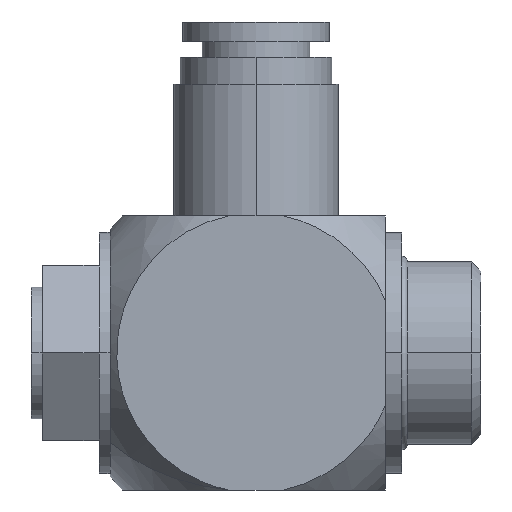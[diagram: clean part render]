
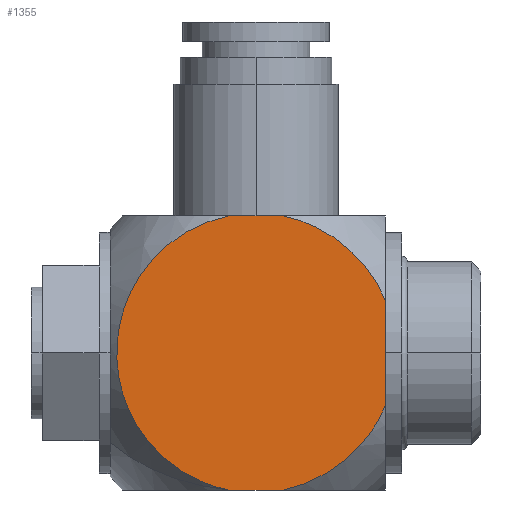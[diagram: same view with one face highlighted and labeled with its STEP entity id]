
A CAD part, left-side view. The second image highlights one B-rep face of the part: STEP entity #1355.
In plain terms, the highlighted planar face has unit normal (-1, 0, 0).
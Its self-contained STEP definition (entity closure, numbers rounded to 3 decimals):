
#93=DIRECTION('',(0.,-1.,0.));
#94=VECTOR('',#93,5.);
#95=CARTESIAN_POINT('',(-12.,1.75,-12.5));
#96=LINE('',#95,#94);
#118=DIRECTION('',(0.,0.,1.));
#119=VECTOR('',#118,9.618);
#120=CARTESIAN_POINT('',(-12.,-12.55,-4.809));
#121=LINE('',#120,#119);
#274=DIRECTION('',(0.,-1.,0.));
#275=VECTOR('',#274,5.);
#276=CARTESIAN_POINT('',(-12.,1.75,12.5));
#277=LINE('',#276,#275);
#361=CARTESIAN_POINT('',(-12.,-3.25,-12.5));
#362=CARTESIAN_POINT('',(-12.,-3.526,-12.441));
#363=CARTESIAN_POINT('',(-12.,-4.073,-12.307));
#364=CARTESIAN_POINT('',(-12.,-4.88,-12.052));
#365=CARTESIAN_POINT('',(-12.,-5.669,-11.745));
#366=CARTESIAN_POINT('',(-12.,-6.436,-11.388));
#367=CARTESIAN_POINT('',(-12.,-7.177,-10.983));
#368=CARTESIAN_POINT('',(-12.,-7.89,-10.532));
#369=CARTESIAN_POINT('',(-12.,-8.573,-10.035));
#370=CARTESIAN_POINT('',(-12.,-9.214,-9.501));
#371=CARTESIAN_POINT('',(-12.,-9.785,-8.96));
#372=CARTESIAN_POINT('',(-12.,-10.272,-8.442));
#373=CARTESIAN_POINT('',(-12.,-10.697,-7.94));
#374=CARTESIAN_POINT('',(-12.,-11.074,-7.448));
#375=CARTESIAN_POINT('',(-12.,-11.417,-6.953));
#376=CARTESIAN_POINT('',(-12.,-11.738,-6.44));
#377=CARTESIAN_POINT('',(-12.,-12.037,-5.909));
#378=CARTESIAN_POINT('',(-12.,-12.31,-5.364));
#379=CARTESIAN_POINT('',(-12.,-12.473,-4.995));
#380=CARTESIAN_POINT('',(-12.,-12.55,-4.809));
#382=CARTESIAN_POINT('',(-12.,1.75,12.5));
#383=CARTESIAN_POINT('',(-12.,2.039,12.442));
#384=CARTESIAN_POINT('',(-12.,2.612,12.306));
#385=CARTESIAN_POINT('',(-12.,3.457,12.041));
#386=CARTESIAN_POINT('',(-12.,4.279,11.719));
#387=CARTESIAN_POINT('',(-12.,5.08,11.34));
#388=CARTESIAN_POINT('',(-12.,5.851,10.907));
#389=CARTESIAN_POINT('',(-12.,6.59,10.42));
#390=CARTESIAN_POINT('',(-12.,7.294,9.883));
#391=CARTESIAN_POINT('',(-12.,7.959,9.298));
#392=CARTESIAN_POINT('',(-12.,8.571,8.679));
#393=CARTESIAN_POINT('',(-12.,9.119,8.043));
#394=CARTESIAN_POINT('',(-12.,9.602,7.406));
#395=CARTESIAN_POINT('',(-12.,10.022,6.774));
#396=CARTESIAN_POINT('',(-12.,10.388,6.146));
#397=CARTESIAN_POINT('',(-12.,10.709,5.519));
#398=CARTESIAN_POINT('',(-12.,10.99,4.888));
#399=CARTESIAN_POINT('',(-12.,11.232,4.254));
#400=CARTESIAN_POINT('',(-12.,11.438,3.615));
#401=CARTESIAN_POINT('',(-12.,11.61,2.97));
#402=CARTESIAN_POINT('',(-12.,11.747,2.318));
#403=CARTESIAN_POINT('',(-12.,11.851,1.659));
#404=CARTESIAN_POINT('',(-12.,11.92,0.994));
#405=CARTESIAN_POINT('',(-12.,11.954,0.326));
#406=CARTESIAN_POINT('',(-12.,11.954,-0.344));
#407=CARTESIAN_POINT('',(-12.,11.918,-1.012));
#408=CARTESIAN_POINT('',(-12.,11.848,-1.676));
#409=CARTESIAN_POINT('',(-12.,11.744,-2.335));
#410=CARTESIAN_POINT('',(-12.,11.605,-2.987));
#411=CARTESIAN_POINT('',(-12.,11.433,-3.632));
#412=CARTESIAN_POINT('',(-12.,11.225,-4.273));
#413=CARTESIAN_POINT('',(-12.,10.981,-4.908));
#414=CARTESIAN_POINT('',(-12.,10.7,-5.539));
#415=CARTESIAN_POINT('',(-12.,10.376,-6.169));
#416=CARTESIAN_POINT('',(-12.,10.006,-6.799));
#417=CARTESIAN_POINT('',(-12.,9.586,-7.428));
#418=CARTESIAN_POINT('',(-12.,9.105,-8.061));
#419=CARTESIAN_POINT('',(-12.,8.562,-8.689));
#420=CARTESIAN_POINT('',(-12.,7.959,-9.297));
#421=CARTESIAN_POINT('',(-12.,7.302,-9.876));
#422=CARTESIAN_POINT('',(-12.,6.595,-10.416));
#423=CARTESIAN_POINT('',(-12.,5.85,-10.907));
#424=CARTESIAN_POINT('',(-12.,5.078,-11.341));
#425=CARTESIAN_POINT('',(-12.,4.278,-11.72));
#426=CARTESIAN_POINT('',(-12.,3.458,-12.041));
#427=CARTESIAN_POINT('',(-12.,2.614,-12.305));
#428=CARTESIAN_POINT('',(-12.,2.04,-12.442));
#429=CARTESIAN_POINT('',(-12.,1.75,-12.5));
#431=CARTESIAN_POINT('',(-12.,-12.55,4.809));
#432=CARTESIAN_POINT('',(-12.,-12.475,4.99));
#433=CARTESIAN_POINT('',(-12.,-12.315,5.352));
#434=CARTESIAN_POINT('',(-12.,-12.046,5.891));
#435=CARTESIAN_POINT('',(-12.,-11.753,6.416));
#436=CARTESIAN_POINT('',(-12.,-11.441,6.917));
#437=CARTESIAN_POINT('',(-12.,-11.113,7.393));
#438=CARTESIAN_POINT('',(-12.,-10.749,7.875));
#439=CARTESIAN_POINT('',(-12.,-10.327,8.381));
#440=CARTESIAN_POINT('',(-12.,-9.808,8.938));
#441=CARTESIAN_POINT('',(-12.,-9.224,9.492));
#442=CARTESIAN_POINT('',(-12.,-8.592,10.019));
#443=CARTESIAN_POINT('',(-12.,-7.916,10.514));
#444=CARTESIAN_POINT('',(-12.,-7.198,10.971));
#445=CARTESIAN_POINT('',(-12.,-6.45,11.381));
#446=CARTESIAN_POINT('',(-12.,-5.679,11.741));
#447=CARTESIAN_POINT('',(-12.,-4.888,12.049));
#448=CARTESIAN_POINT('',(-12.,-4.078,12.305));
#449=CARTESIAN_POINT('',(-12.,-3.528,12.441));
#450=CARTESIAN_POINT('',(-12.,-3.25,12.5));
#980=CARTESIAN_POINT('',(-12.,-12.55,-4.809));
#981=CARTESIAN_POINT('',(-12.,-12.55,4.809));
#982=VERTEX_POINT('',#980);
#983=VERTEX_POINT('',#981);
#988=CARTESIAN_POINT('',(-12.,1.75,-12.5));
#989=CARTESIAN_POINT('',(-12.,-3.25,-12.5));
#990=VERTEX_POINT('',#988);
#991=VERTEX_POINT('',#989);
#996=CARTESIAN_POINT('',(-12.,1.75,12.5));
#997=CARTESIAN_POINT('',(-12.,-3.25,12.5));
#998=VERTEX_POINT('',#996);
#999=VERTEX_POINT('',#997);
#1341=CARTESIAN_POINT('',(-12.,12.55,-12.5));
#1342=DIRECTION('',(-1.,0.,0.));
#1343=DIRECTION('',(0.,-1.,0.));
#1344=AXIS2_PLACEMENT_3D('',#1341,#1342,#1343);
#1345=PLANE('',#1344);
#1346=ORIENTED_EDGE('',*,*,#1136,.F.);
#1347=ORIENTED_EDGE('',*,*,#1298,.F.);
#1348=ORIENTED_EDGE('',*,*,#1121,.F.);
#1350=ORIENTED_EDGE('',*,*,#1349,.F.);
#1351=ORIENTED_EDGE('',*,*,#1326,.T.);
#1352=ORIENTED_EDGE('',*,*,#1225,.F.);
#1353=EDGE_LOOP('',(#1346,#1347,#1348,#1350,#1351,#1352));
#1354=FACE_OUTER_BOUND('',#1353,.F.);
#1355=ADVANCED_FACE('',(#1354),#1345,.T.);
#381=B_SPLINE_CURVE_WITH_KNOTS('',3,(#361,#362,#363,#364,#365,#366,#367,#368,
#369,#370,#371,#372,#373,#374,#375,#376,#377,#378,#379,#380),.UNSPECIFIED.,.F.,
.F.,(4,1,1,1,1,1,1,1,1,1,1,1,1,1,1,1,1,4),(0.,0.059,
0.118,0.176,0.235,0.294,
0.353,0.412,0.471,0.529,
0.588,0.647,0.706,0.765,
0.824,0.882,0.941,1.),.UNSPECIFIED.);
#430=B_SPLINE_CURVE_WITH_KNOTS('',3,(#382,#383,#384,#385,#386,#387,#388,#389,
#390,#391,#392,#393,#394,#395,#396,#397,#398,#399,#400,#401,#402,#403,#404,#405,
#406,#407,#408,#409,#410,#411,#412,#413,#414,#415,#416,#417,#418,#419,#420,#421,
#422,#423,#424,#425,#426,#427,#428,#429),.UNSPECIFIED.,.F.,.F.,(4,1,1,1,1,1,1,1,
1,1,1,1,1,1,1,1,1,1,1,1,1,1,1,1,1,1,1,1,1,1,1,1,1,1,1,1,1,1,1,1,1,1,1,1,1,4),(
0.,0.022,0.044,0.067,0.089,
0.111,0.133,0.156,0.178,0.2,
0.222,0.244,0.267,0.289,
0.311,0.333,0.356,0.378,0.4,
0.422,0.444,0.467,0.489,
0.511,0.533,0.556,0.578,0.6,
0.622,0.644,0.667,0.689,
0.711,0.733,0.756,0.778,0.8,
0.822,0.844,0.867,0.889,
0.911,0.933,0.956,0.978,1.),
.UNSPECIFIED.);
#451=B_SPLINE_CURVE_WITH_KNOTS('',3,(#431,#432,#433,#434,#435,#436,#437,#438,
#439,#440,#441,#442,#443,#444,#445,#446,#447,#448,#449,#450),.UNSPECIFIED.,.F.,
.F.,(4,1,1,1,1,1,1,1,1,1,1,1,1,1,1,1,1,4),(0.,0.059,
0.118,0.176,0.235,0.294,
0.353,0.412,0.471,0.529,
0.588,0.647,0.706,0.765,
0.824,0.882,0.941,1.),.UNSPECIFIED.);
#1121=EDGE_CURVE('',#990,#991,#96,.T.);
#1136=EDGE_CURVE('',#982,#983,#121,.T.);
#1225=EDGE_CURVE('',#983,#999,#451,.T.);
#1298=EDGE_CURVE('',#991,#982,#381,.T.);
#1326=EDGE_CURVE('',#998,#999,#277,.T.);
#1349=EDGE_CURVE('',#998,#990,#430,.T.);
